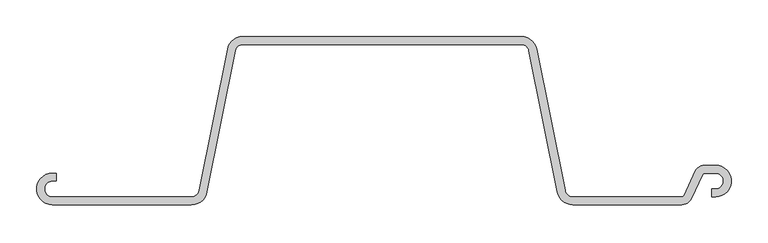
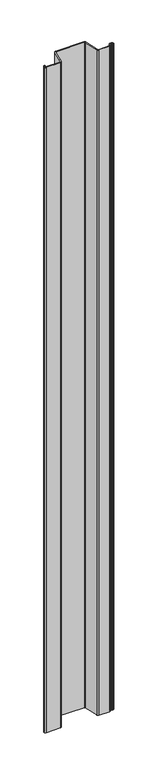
"""IFC4 building model written with IfcOpenShell, lengths in millimetres: proxy geometry, 鋼矢板10H型 : 鋼矢板10H型."""

from ifc_helpers import new_model, si_unit, point, frame, frame_2d, origin, place, context, project, spatial, polyline, circle_curve, trimmed, segment, composite_curve, outline, extrude, source, transform, mapped, element, save


def generic_models_831c492c(model_context):
    return source(origin(), model_context, "Body", "SweptSolid", [
        extrude(outline(composite_curve([segment(trimmed(circle_curve(frame_2d((409.1972607, -101.1142857)), 13.8857143), [point((421.7819917, -106.9826421))], [point((409.1972607, -115.0))], False, "CARTESIAN"), True, "CONTINUOUS"), segment(polyline([(409.1972607, -115.0), (260.2008232, -115.0)]), True, "CONTINUOUS"), segment(trimmed(circle_curve(frame_2d((260.2008232, -93.4)), 21.6), [point((260.2008232, -115.0))], [point((239.0202806, -97.6361085))], False, "CARTESIAN"), True, "CONTINUOUS"), segment(polyline([(239.0202806, -97.6361085), (200.3894481, 95.5180543)]), True, "CONTINUOUS"), segment(trimmed(circle_curve(frame_2d((189.7991768, 93.4)), 10.8), [point((200.3894481, 95.5180543))], [point((189.7991768, 104.2))], True, "CARTESIAN"), True, "CONTINUOUS"), segment(polyline([(189.7991768, 104.2), (-189.7991768, 104.2)]), True, "CONTINUOUS"), segment(trimmed(circle_curve(frame_2d((-189.7991768, 93.4)), 10.8), [point((-189.7991768, 104.2))], [point((-200.3894481, 95.5180543))], True, "CARTESIAN"), True, "CONTINUOUS"), segment(polyline([(-200.3894481, 95.5180543), (-239.0202806, -97.6361085)]), True, "CONTINUOUS"), segment(trimmed(circle_curve(frame_2d((-260.2008232, -93.4)), 21.6), [point((-239.0202806, -97.6361085))], [point((-260.2008232, -115.0))], False, "CARTESIAN"), True, "CONTINUOUS"), segment(polyline([(-260.2008232, -115.0), (-450.0, -115.0)]), True, "CONTINUOUS"), segment(trimmed(circle_curve(frame_2d((-450.0, -93.4)), 21.6), [point((-450.0, -115.0))], [point((-450.0, -71.8))], False, "CARTESIAN"), True, "CONTINUOUS"), segment(polyline([(-450.0, -71.8), (-445.0, -71.8), (-445.0, -82.6), (-450.0, -82.6)]), True, "CONTINUOUS"), segment(trimmed(circle_curve(frame_2d((-450.0, -93.4)), 10.8), [point((-450.0, -82.6))], [point((-450.0, -104.2))], True, "CARTESIAN"), True, "CONTINUOUS"), segment(polyline([(-450.0, -104.2), (-260.2008232, -104.2)]), True, "CONTINUOUS"), segment(trimmed(circle_curve(frame_2d((-260.2008232, -93.4)), 10.8), [point((-260.2008232, -104.2))], [point((-249.6105519, -95.5180543))], True, "CARTESIAN"), True, "CONTINUOUS"), segment(polyline([(-249.6105519, -95.5180543), (-210.9797194, 97.6361085)]), True, "CONTINUOUS"), segment(trimmed(circle_curve(frame_2d((-189.7991768, 93.4)), 21.6), [point((-210.9797194, 97.6361085))], [point((-189.7991768, 115.0))], False, "CARTESIAN"), True, "CONTINUOUS"), segment(polyline([(-189.7991768, 115.0), (189.7991768, 115.0)]), True, "CONTINUOUS"), segment(trimmed(circle_curve(frame_2d((189.7991768, 93.4)), 21.6), [point((189.7991768, 115.0))], [point((210.9797194, 97.6361085))], False, "CARTESIAN"), True, "CONTINUOUS"), segment(polyline([(210.9797194, 97.6361085), (249.6105519, -95.5180543)]), True, "CONTINUOUS"), segment(trimmed(circle_curve(frame_2d((260.2008232, -93.4)), 10.8), [point((249.6105519, -95.5180543))], [point((260.2008232, -104.2))], True, "CARTESIAN"), True, "CONTINUOUS"), segment(polyline([(260.2008232, -104.2), (409.1972607, -104.2)]), True, "CONTINUOUS"), segment(trimmed(circle_curve(frame_2d((409.1972607, -101.1142857)), 3.0857143), [point((409.1972607, -104.2))], [point((411.9938676, -102.4183649))], True, "CARTESIAN"), True, "CONTINUOUS"), segment(polyline([(411.9938676, -102.4183649), (427.569013, -69.0173579)]), True, "CONTINUOUS"), segment(trimmed(circle_curve(frame_2d((440.153744, -74.8857143)), 13.8857143), [point((427.569013, -69.0173579))], [point((440.153744, -61.0))], False, "CARTESIAN"), True, "CONTINUOUS"), segment(polyline([(440.153744, -61.0), (455.0, -61.0)]), True, "CONTINUOUS"), segment(trimmed(circle_curve(frame_2d((455.0, -82.6)), 21.6), [point((455.0, -61.0))], [point((455.0, -104.2))], False, "CARTESIAN"), True, "CONTINUOUS"), segment(polyline([(455.0, -104.2), (450.0, -104.2), (450.0, -93.4), (455.0, -93.4)]), True, "CONTINUOUS"), segment(trimmed(circle_curve(frame_2d((455.0, -82.6)), 10.8), [point((455.0, -93.4))], [point((455.0, -71.8))], True, "CARTESIAN"), True, "CONTINUOUS"), segment(polyline([(455.0, -71.8), (440.153744, -71.8)]), True, "CONTINUOUS"), segment(trimmed(circle_curve(frame_2d((440.153744, -74.8857143)), 3.0857143), [point((440.153744, -71.8))], [point((437.3571371, -73.5816351))], True, "CARTESIAN"), True, "CONTINUOUS"), segment(polyline([(437.3571371, -73.5816351), (421.7819917, -106.9826421)]), True, "CONTINUOUS")], self_intersect=False)), frame((0.0, 0.0, -9500.0), z_axis=(0.0, 0.0, 1.0), x_axis=(1.0, 0.0, 0.0)), (0.0, 0.0, 1.0), 9500.0),
    ])


if __name__ == "__main__":
    model = new_model("IFC4")
    model_context = context("Model", 3, world=origin())
    ifc_project = project(units=[si_unit("LENGTHUNIT", "METRE", prefix="MILLI")], contexts=[model_context])
    site = spatial("IfcSite", under=ifc_project)
    building = spatial("IfcBuilding", under=site)
    placement = place(None, origin())
    generic_models_shape = generic_models_831c492c(model_context)
    element("IfcBuildingElementProxy", 1, Name="鋼矢板10H型 : 鋼矢板10H型", ObjectType="鋼矢板10H型 : 鋼矢板10H型", at=placement, inside=building, context=model_context, shape_type="MappedRepresentation", body=[
        mapped(generic_models_shape, transform((0.0, 0.0, 0.0), x_axis=(1.0, 0.0, 0.0), y_axis=(0.0, 1.0, 0.0), z_axis=(0.0, 0.0, 1.0))),
    ])
    save(model, "model.ifc")
